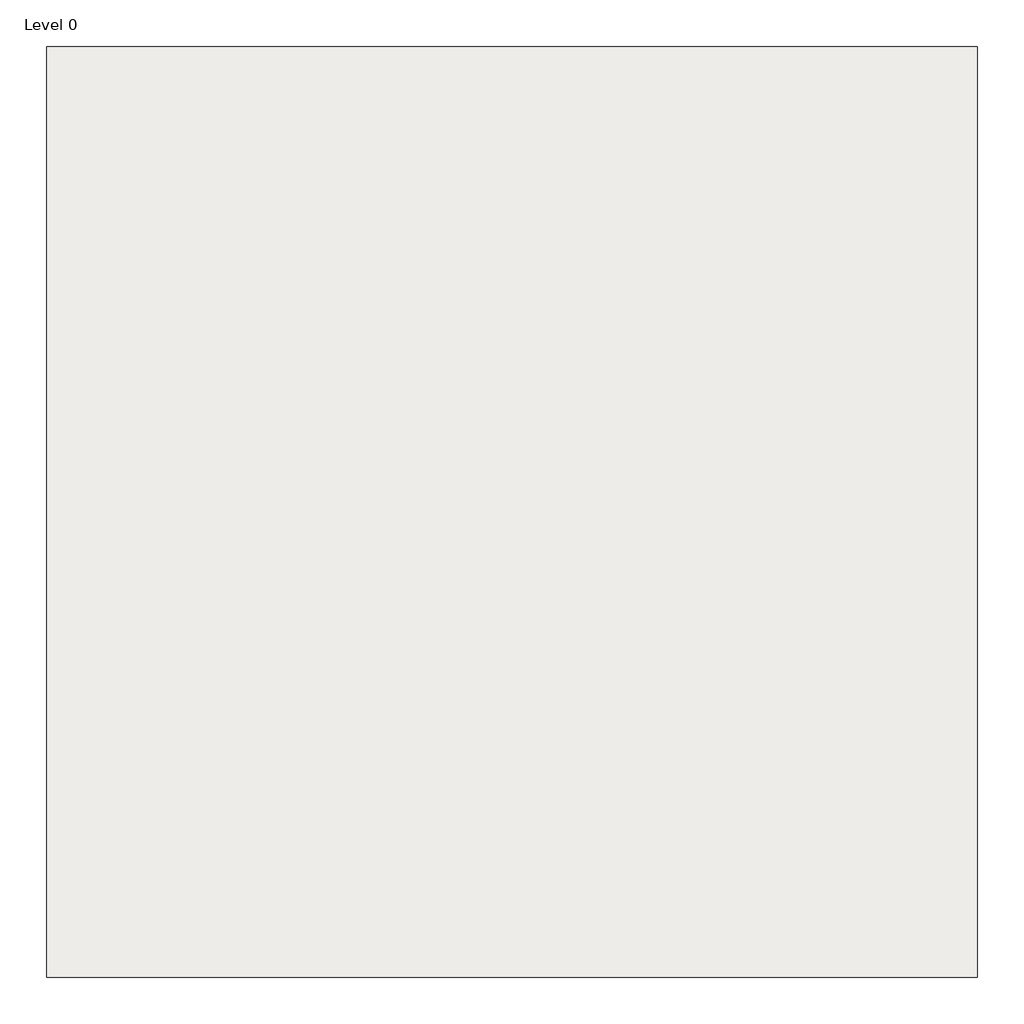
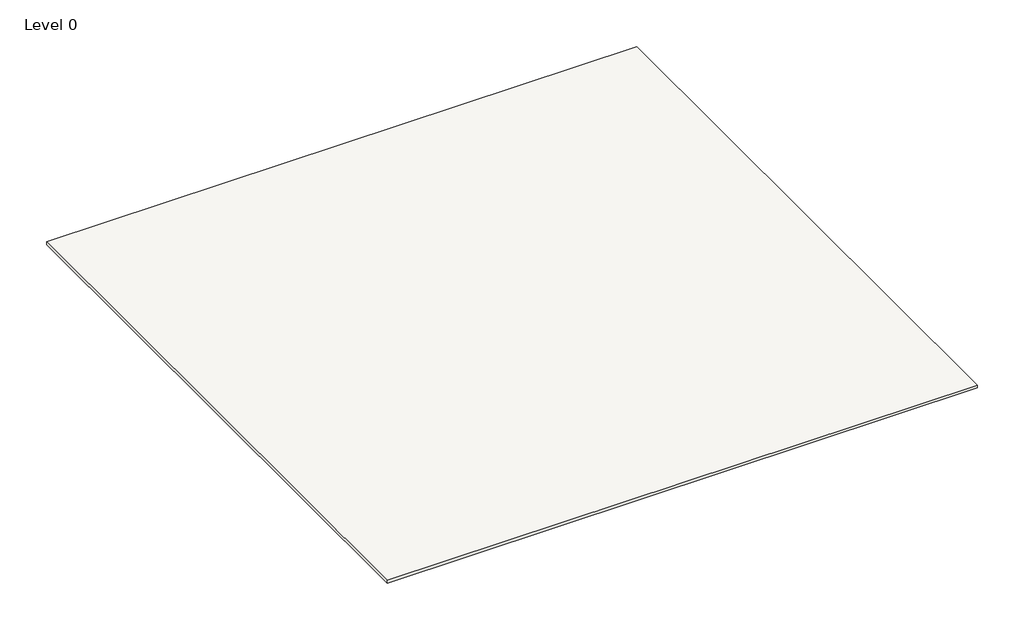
# One storey: 1 covering.
"""IFC4 building model written with IfcOpenShell, lengths in millimetres."""

from ifc_helpers import new_model, si_unit, origin, origin_with_axes, place, context, project, spatial, polyline, outline, extrude, element, save

model = new_model("IFC4")

# Units and contexts
model_context = context("Model", 3, world=origin())
ifc_project = project(units=[si_unit("LENGTHUNIT", "METRE", prefix="MILLI")], contexts=[model_context])

# Site, building, storey
site = spatial("IfcSite", under=ifc_project)
building = spatial("IfcBuilding", under=site)
storey = spatial("IfcBuildingStorey", under=building, Name="Level 0", Elevation=0.0)

# Covering
placement = place(None, origin())
element("IfcCovering", 1, ObjectType="NBS_Zentia_ModularSuspendedCeilingSystems_OpliaTriangle", at=placement, inside=storey, context=model_context, shape_type="SweptSolid", body=[
    extrude(outline(polyline([(1024.0, -5424.0), (1024.0, -2024.0), (4424.0, -2024.0), (4424.0, -5424.0), (1024.0, -5424.0)])), origin_with_axes(), (0.0, 0.0, 1.0), 17.0),
])

save(model, "model.ifc")
